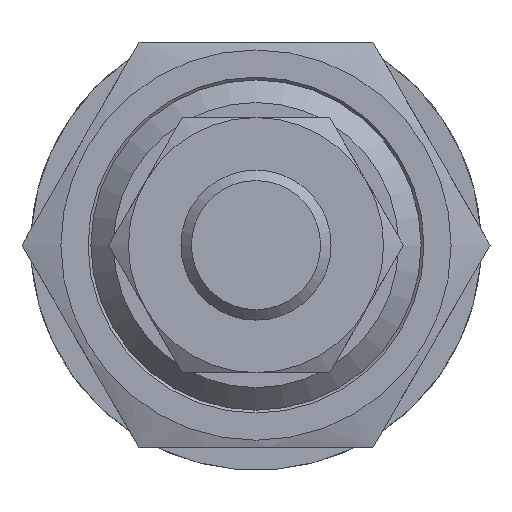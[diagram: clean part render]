
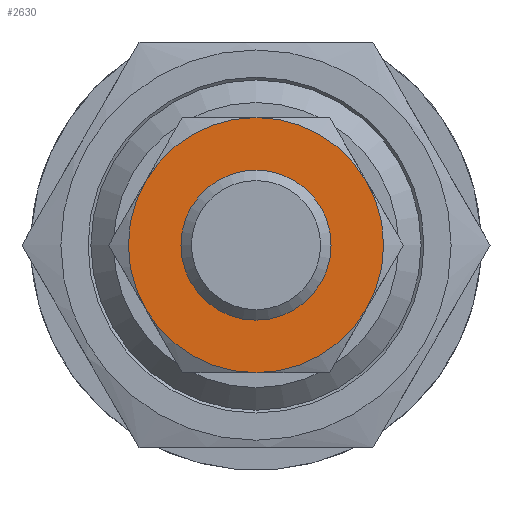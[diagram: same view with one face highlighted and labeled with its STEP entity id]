
A CAD part, front view. The second image highlights one B-rep face of the part: STEP entity #2630.
In plain terms, the highlighted planar face has unit normal (0, -1, 0) as drawn and (-1, 0, 0) by its records, which use the part's own axes.
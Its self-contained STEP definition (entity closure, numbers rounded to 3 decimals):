
#538=PLANE('',#4099);
#1154=ORIENTED_EDGE('',*,*,#1550,.T.);
#1155=ORIENTED_EDGE('',*,*,#1551,.T.);
#1156=ORIENTED_EDGE('',*,*,#1552,.T.);
#1157=ORIENTED_EDGE('',*,*,#1553,.T.);
#1158=ORIENTED_EDGE('',*,*,#1554,.T.);
#1159=ORIENTED_EDGE('',*,*,#1555,.T.);
#1160=ORIENTED_EDGE('',*,*,#1556,.T.);
#1550=EDGE_CURVE('',#1818,#1818,#1957,.T.);
#1551=EDGE_CURVE('',#1819,#1820,#1958,.T.);
#1552=EDGE_CURVE('',#1820,#1821,#1959,.T.);
#1553=EDGE_CURVE('',#1821,#1822,#1960,.T.);
#1554=EDGE_CURVE('',#1822,#1823,#1961,.T.);
#1555=EDGE_CURVE('',#1823,#1824,#1962,.T.);
#1556=EDGE_CURVE('',#1824,#1819,#1963,.T.);
#1818=VERTEX_POINT('',#5714);
#1819=VERTEX_POINT('',#5716);
#1820=VERTEX_POINT('',#5717);
#1821=VERTEX_POINT('',#5719);
#1822=VERTEX_POINT('',#5721);
#1823=VERTEX_POINT('',#5723);
#1824=VERTEX_POINT('',#5725);
#1957=CIRCLE('',#4100,4.724);
#1958=CIRCLE('',#4101,8.5);
#1959=CIRCLE('',#4102,8.5);
#1960=CIRCLE('',#4103,8.5);
#1961=CIRCLE('',#4104,8.5);
#1962=CIRCLE('',#4105,8.5);
#1963=CIRCLE('',#4106,8.5);
#2182=EDGE_LOOP('',(#1154));
#2183=EDGE_LOOP('',(#1155,#1156,#1157,#1158,#1159,#1160));
#2420=FACE_BOUND('',#2182,.T.);
#2421=FACE_BOUND('',#2183,.T.);
#2630=ADVANCED_FACE('',(#2420,#2421),#538,.F.);
#4099=AXIS2_PLACEMENT_3D('',#5712,#4804,#4805);
#4100=AXIS2_PLACEMENT_3D('',#5713,#4806,#4807);
#4101=AXIS2_PLACEMENT_3D('',#5715,#4808,#4809);
#4102=AXIS2_PLACEMENT_3D('',#5718,#4810,#4811);
#4103=AXIS2_PLACEMENT_3D('',#5720,#4812,#4813);
#4104=AXIS2_PLACEMENT_3D('',#5722,#4814,#4815);
#4105=AXIS2_PLACEMENT_3D('',#5724,#4816,#4817);
#4106=AXIS2_PLACEMENT_3D('',#5726,#4818,#4819);
#4804=DIRECTION('',(1.,0.,0.));
#4805=DIRECTION('',(0.,0.,-1.));
#4806=DIRECTION('',(1.,0.,0.));
#4807=DIRECTION('',(0.,0.,-1.));
#4808=DIRECTION('',(-1.,0.,0.));
#4809=DIRECTION('',(0.,1.,0.));
#4810=DIRECTION('',(-1.,0.,0.));
#4811=DIRECTION('',(0.,1.,0.));
#4812=DIRECTION('',(-1.,0.,0.));
#4813=DIRECTION('',(0.,1.,0.));
#4814=DIRECTION('',(-1.,0.,0.));
#4815=DIRECTION('',(0.,1.,0.));
#4816=DIRECTION('',(-1.,0.,0.));
#4817=DIRECTION('',(0.,1.,0.));
#4818=DIRECTION('',(-1.,0.,0.));
#4819=DIRECTION('',(0.,1.,0.));
#5712=CARTESIAN_POINT('',(0.,0.,0.));
#5713=CARTESIAN_POINT('',(0.,0.,0.));
#5714=CARTESIAN_POINT('',(0.,0.,-4.724));
#5715=CARTESIAN_POINT('',(0.,0.,0.));
#5716=CARTESIAN_POINT('',(0.,-7.361,-4.25));
#5717=CARTESIAN_POINT('',(0.,-7.361,4.25));
#5718=CARTESIAN_POINT('',(0.,0.,0.));
#5719=CARTESIAN_POINT('',(0.,0.,8.5));
#5720=CARTESIAN_POINT('',(0.,0.,0.));
#5721=CARTESIAN_POINT('',(0.,7.361,4.25));
#5722=CARTESIAN_POINT('',(0.,0.,0.));
#5723=CARTESIAN_POINT('',(0.,7.361,-4.25));
#5724=CARTESIAN_POINT('',(0.,0.,0.));
#5725=CARTESIAN_POINT('',(0.,0.,-8.5));
#5726=CARTESIAN_POINT('',(0.,0.,0.));
